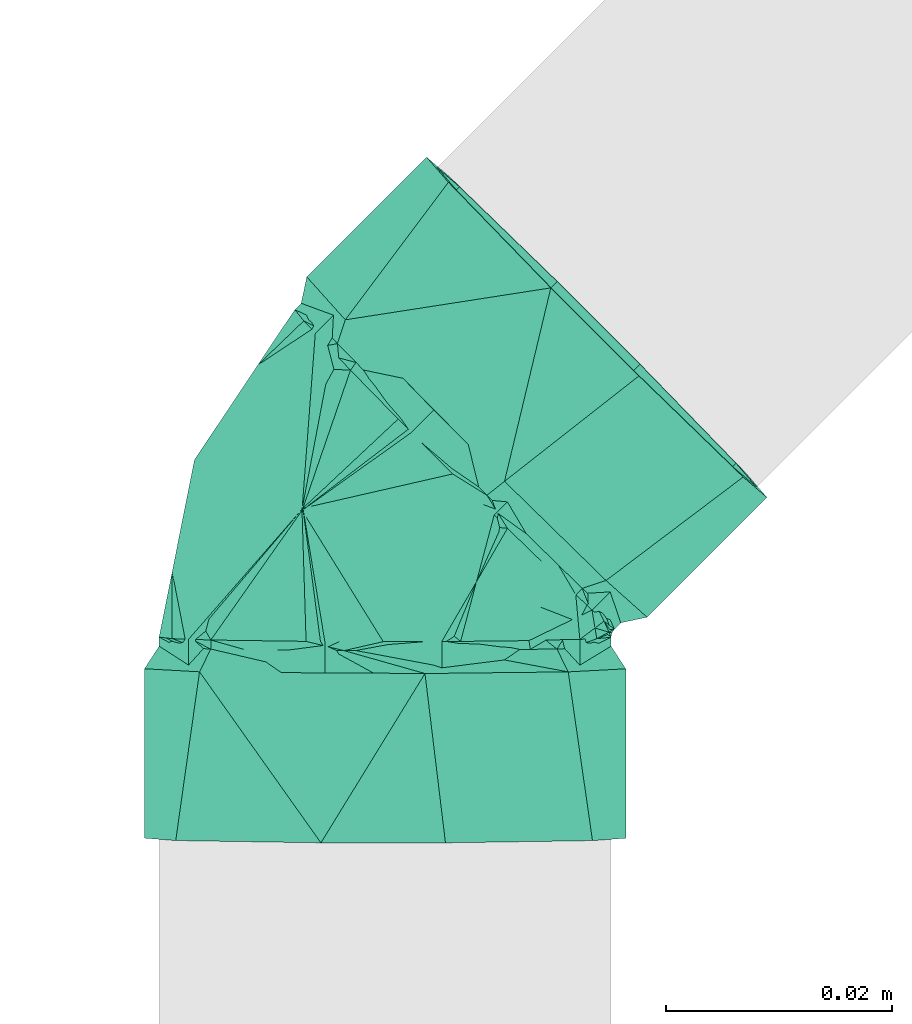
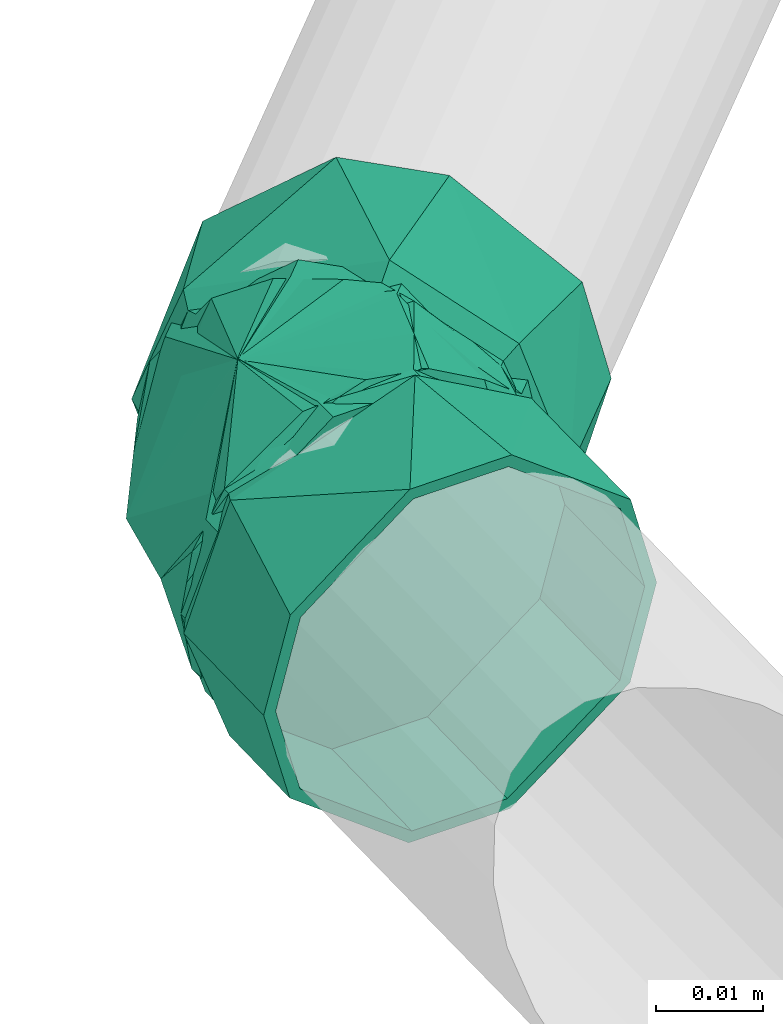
# One storey, part 370 of 589: 1 flow fitting.
"""IFC2X3 building model written with IfcOpenShell, lengths in millimetres."""

from ifc_helpers import new_model, entity, si_unit, converted_unit, derived_unit, direction, frame, origin, place, context, subcontext, project, spatial, faceted_brep, source, transform, mapped, material, type_object, type_shapes, element, save


model = new_model("IFC2X3")

# Units and contexts
model_context = context("Model", 3, precision=0.01, world=origin(), true_north=direction((6.123031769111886e-17, 1.0)))
body_context = subcontext(model_context, "Body", "Model", "MODEL_VIEW")
ifc_project = project(units=[si_unit("LENGTHUNIT", "METRE", prefix="MILLI"), si_unit("AREAUNIT", "SQUARE_METRE"), si_unit("VOLUMEUNIT", "CUBIC_METRE"), converted_unit("PLANEANGLEUNIT", "DEGREE", entity("IfcRatioMeasure", 0.017453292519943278), si_unit("PLANEANGLEUNIT", "RADIAN"), dimensions=[0, 0, 0, 0, 0, 0, 0]), si_unit("MASSUNIT", "GRAM", prefix="KILO"), derived_unit("MASSDENSITYUNIT", [(si_unit("MASSUNIT", "GRAM", prefix="KILO"), 1), (si_unit("LENGTHUNIT", "METRE"), -3)]), derived_unit("IONCONCENTRATIONUNIT", [(si_unit("MASSUNIT", "GRAM", prefix="KILO"), 1), (si_unit("LENGTHUNIT", "METRE"), -3)]), derived_unit("MOMENTOFINERTIAUNIT", [(si_unit("LENGTHUNIT", "METRE"), 4)]), si_unit("TIMEUNIT", "SECOND"), si_unit("FREQUENCYUNIT", "HERTZ"), si_unit("THERMODYNAMICTEMPERATUREUNIT", "DEGREE_CELSIUS"), derived_unit("THERMALTRANSMITTANCEUNIT", [(si_unit("MASSUNIT", "GRAM", prefix="KILO"), 1), (si_unit("THERMODYNAMICTEMPERATUREUNIT", "KELVIN"), -1), (si_unit("TIMEUNIT", "SECOND"), -3)]), derived_unit("THERMALCONDUCTANCEUNIT", [(si_unit("MASSUNIT", "GRAM", prefix="KILO"), 1), (si_unit("THERMODYNAMICTEMPERATUREUNIT", "KELVIN"), -1), (si_unit("TIMEUNIT", "SECOND"), -3), (si_unit("LENGTHUNIT", "METRE"), 1)]), derived_unit("VOLUMETRICFLOWRATEUNIT", [(si_unit("LENGTHUNIT", "METRE"), 3), (si_unit("TIMEUNIT", "SECOND"), -1)]), derived_unit("MASSFLOWRATEUNIT", [(si_unit("MASSUNIT", "GRAM", prefix="KILO"), 1), (si_unit("TIMEUNIT", "SECOND"), -1)]), derived_unit("ROTATIONALFREQUENCYUNIT", [(si_unit("TIMEUNIT", "SECOND"), -1)]), si_unit("ELECTRICCURRENTUNIT", "AMPERE"), si_unit("ELECTRICVOLTAGEUNIT", "VOLT"), si_unit("POWERUNIT", "WATT"), si_unit("FORCEUNIT", "NEWTON", prefix="KILO"), si_unit("ILLUMINANCEUNIT", "LUX"), si_unit("LUMINOUSFLUXUNIT", "LUMEN"), si_unit("LUMINOUSINTENSITYUNIT", "CANDELA"), derived_unit("USERDEFINED", [(si_unit("MASSUNIT", "GRAM", prefix="KILO"), -1), (si_unit("LENGTHUNIT", "METRE"), -2), (si_unit("TIMEUNIT", "SECOND"), 3), (si_unit("LUMINOUSFLUXUNIT", "LUMEN"), 1)]), derived_unit("USERDEFINED", [(si_unit("MASSUNIT", "GRAM", prefix="KILO"), 1), (si_unit("TIMEUNIT", "SECOND"), -3), (si_unit("LENGTHUNIT", "METRE"), 3), (si_unit("ELECTRICCURRENTUNIT", "AMPERE"), -2)]), derived_unit("SOUNDPOWERUNIT", [(si_unit("MASSUNIT", "GRAM", prefix="KILO"), 1), (si_unit("TIMEUNIT", "SECOND"), -3), (si_unit("LENGTHUNIT", "METRE"), 2)]), derived_unit("SOUNDPRESSUREUNIT", [(si_unit("MASSUNIT", "GRAM", prefix="KILO"), 1), (si_unit("LENGTHUNIT", "METRE"), -1), (si_unit("TIMEUNIT", "SECOND"), -2)]), derived_unit("LINEARVELOCITYUNIT", [(si_unit("LENGTHUNIT", "METRE"), 1), (si_unit("TIMEUNIT", "SECOND"), -1)]), si_unit("PRESSUREUNIT", "PASCAL"), derived_unit("USERDEFINED", [(si_unit("MASSUNIT", "GRAM", prefix="KILO"), 1), (si_unit("LENGTHUNIT", "METRE"), -2), (si_unit("TIMEUNIT", "SECOND"), -2)]), derived_unit("LINEARFORCEUNIT", [(si_unit("MASSUNIT", "GRAM", prefix="KILO"), 1), (si_unit("TIMEUNIT", "SECOND"), -2)]), derived_unit("PLANARFORCEUNIT", [(si_unit("MASSUNIT", "GRAM", prefix="KILO"), 1), (si_unit("LENGTHUNIT", "METRE"), -1), (si_unit("TIMEUNIT", "SECOND"), -2)]), derived_unit("SPECIFICHEATCAPACITYUNIT", [(si_unit("THERMODYNAMICTEMPERATUREUNIT", "KELVIN"), -1), (si_unit("LENGTHUNIT", "METRE"), 2), (si_unit("TIMEUNIT", "SECOND"), -2)]), derived_unit("HEATINGVALUEUNIT", [(si_unit("LENGTHUNIT", "METRE"), 2), (si_unit("TIMEUNIT", "SECOND"), -2)]), derived_unit("VAPORPERMEABILITYUNIT", [(si_unit("LENGTHUNIT", "METRE"), -1), (si_unit("TIMEUNIT", "SECOND"), 1)]), derived_unit("DYNAMICVISCOSITYUNIT", [(si_unit("MASSUNIT", "GRAM", prefix="KILO"), 1), (si_unit("TIMEUNIT", "SECOND"), -1), (si_unit("LENGTHUNIT", "METRE"), -1)]), derived_unit("THERMALEXPANSIONCOEFFICIENTUNIT", [(si_unit("THERMODYNAMICTEMPERATUREUNIT", "KELVIN"), -1)]), derived_unit("MODULUSOFELASTICITYUNIT", [(si_unit("MASSUNIT", "GRAM", prefix="KILO"), 1), (si_unit("LENGTHUNIT", "METRE"), -1), (si_unit("TIMEUNIT", "SECOND"), -2)]), derived_unit("ISOTHERMALMOISTURECAPACITYUNIT", [(si_unit("LENGTHUNIT", "METRE"), 3), (si_unit("MASSUNIT", "GRAM", prefix="KILO"), -1)]), derived_unit("MOISTUREDIFFUSIVITYUNIT", [(si_unit("TIMEUNIT", "SECOND"), -1), (si_unit("LENGTHUNIT", "METRE"), 2)])], contexts=[model_context])

# Site, building, storey
site_placement = place(None, origin())
site = spatial("IfcSite", under=ifc_project, at=site_placement, Name="Default", CompositionType="ELEMENT")
building_placement = place(site_placement, origin())
building = spatial("IfcBuilding", under=site, at=building_placement, CompositionType="ELEMENT")
storey_placement = place(building_placement, frame((0.0, 0.0, 100.0)))
storey = spatial("IfcBuildingStorey", under=building, at=storey_placement, Name="TÉRREO", CompositionType="ELEMENT", Elevation=100.0)

# Flow fitting
ifc_material = material(Name="PVC Série Normal")
pipe_fitting_type = type_object("IfcPipeFittingType", Name="PVC Esgoto_Joelho 45_90_Rodrigo MEP:a. Série Normal", PredefinedType="NOTDEFINED", material=ifc_material)
shared_shape = source(origin(), body_context, "Body", "Brep", [
    faceted_brep([(20.291797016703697, -7.993282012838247, 0.0), (18.397234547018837, -6.098470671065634, 10.0), (9.810603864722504, 2.489287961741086, 19.318516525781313), (2.4905765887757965, 9.810276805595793, 19.318516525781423), (-6.0960540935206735, 18.39803543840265, 10.0), (-7.990616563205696, 20.29284678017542, 0.0), (-6.0960540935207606, 18.398035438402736, -10.0), (2.49057658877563, 9.81027680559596, -19.31851652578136), (9.810603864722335, 2.4892879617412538, -19.318516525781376), (18.397234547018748, -6.098470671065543, -10.0), (-6.010587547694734, 22.272615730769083, 0.0), (-4.116025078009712, 20.377804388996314, 10.0), (4.470605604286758, 11.790045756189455, 19.318516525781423), (11.790632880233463, 4.46905691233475, 19.318516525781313), (20.3772635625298, -4.118701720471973, 10.0), (22.271826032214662, -6.013513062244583, 0.0), (20.37726356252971, -4.11870172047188, -10.0), (11.790632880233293, 4.469056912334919, -19.318516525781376), (4.4706056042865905, 11.790045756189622, -19.31851652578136), (-4.116025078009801, 20.3778043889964, -10.0)], [[[0, 1, 2, 3, 4, 5, 6, 7, 8, 9]], [[10, 11, 12, 13, 14, 15, 16, 17, 18, 19]], [[0, 15, 14, 1]], [[1, 14, 13, 2]], [[13, 12, 3, 2]], [[3, 12, 11, 4]], [[4, 11, 10, 5]], [[5, 10, 19, 6]], [[6, 19, 18, 7]], [[18, 17, 8, 7]], [[8, 17, 16, 9]], [[9, 16, 15, 0]]]),
    faceted_brep([(-11.497676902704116, -17.320508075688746, -10.0), (-11.497676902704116, -20.0, 0.0), (-11.497676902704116, -17.320508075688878, 10.0), (-11.497676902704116, -5.176380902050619, 19.318516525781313), (-11.497676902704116, 5.1763809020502, 19.318516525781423), (-11.497676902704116, 17.320508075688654, 10.0), (-11.497676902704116, 20.0, 0.0), (-11.497676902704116, 17.320508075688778, -10.0), (-11.497676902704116, 5.17638090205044, -19.31851652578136), (-11.497676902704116, -5.176380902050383, -19.318516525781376), (-8.697676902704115, 5.17638090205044, -19.31851652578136), (-8.697676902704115, 17.320508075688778, -10.0), (-8.697676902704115, 20.0, 0.0), (-8.697676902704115, 17.320508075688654, 10.0), (-8.697676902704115, 5.1763809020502, 19.318516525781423), (-8.697676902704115, -5.176380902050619, 19.318516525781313), (-8.697676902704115, -17.320508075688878, 10.0), (-8.697676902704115, -20.0, 0.0), (-8.697676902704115, -17.320508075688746, -10.0), (-8.697676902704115, -5.176380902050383, -19.318516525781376)], [[[0, 1, 2, 3, 4, 5, 6, 7, 8, 9]], [[10, 11, 12, 13, 14, 15, 16, 17, 18, 19]], [[1, 17, 16, 2]], [[2, 16, 15, 3]], [[15, 14, 4, 3]], [[4, 14, 13, 5]], [[5, 13, 12, 6]], [[6, 12, 11, 7]], [[7, 11, 10, 8]], [[10, 19, 9, 8]], [[9, 19, 18, 0]], [[0, 18, 17, 1]]]),
    faceted_brep([(-26.49767690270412, -5.512845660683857, -20.574220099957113), (-26.49767690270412, -5.176380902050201, -19.318516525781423), (-26.49767690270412, 5.176380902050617, -19.318516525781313), (-26.49767690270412, -18.44634110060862, -10.649999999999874), (-26.49767690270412, 5.512845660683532, -20.574220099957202), (-26.49767690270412, -17.320508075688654, -10.0), (-26.49767690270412, -20.0, 0.0), (-26.49767690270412, -21.3, 0.0), (-26.49767690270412, -17.32050807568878, 10.0), (-26.49767690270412, -18.446341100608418, 10.65000000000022), (-26.49767690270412, -5.176380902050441, 19.31851652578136), (-26.49767690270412, -5.512845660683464, 20.574220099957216), (-26.49767690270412, 5.176380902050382, 19.318516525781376), (-26.49767690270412, 5.512845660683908, 20.5742200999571), (-26.49767690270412, 17.320508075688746, 10.0), (-26.49767690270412, 18.446341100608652, 10.649999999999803), (-26.49767690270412, 21.3, 0.0), (-26.49767690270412, 20.0, 0.0), (-26.49767690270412, 18.44634110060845, -10.650000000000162), (-26.49767690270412, 17.320508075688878, -10.0), (-11.497676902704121, 17.320508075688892, -10.0), (-11.497676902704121, 20.0, 0.0), (-11.497676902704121, 5.17638090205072, -19.318516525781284), (-11.497676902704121, -5.176380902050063, -19.31851652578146), (-11.497676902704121, -17.320508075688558, -10.0), (-11.497676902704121, -20.0, 0.0), (-11.497676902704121, -17.320508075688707, 10.0), (-11.497676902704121, -5.176380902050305, 19.318516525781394), (-11.497676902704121, 5.176380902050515, 19.318516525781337), (-11.497676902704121, 17.320508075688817, 10.0), (-11.497676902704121, 21.3, 0.0), (-11.497676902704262, 16.315983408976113, 13.692285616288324), (-11.497676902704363, 3.696367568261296, 20.976817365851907), (-11.497676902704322, -16.31941754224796, 13.688192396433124), (-11.497676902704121, -21.3, 0.0), (-11.497676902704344, -6.311524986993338, 17.3325048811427), (-11.49767690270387, -16.319417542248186, -13.688192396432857), (-11.497676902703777, -3.7016293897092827, -20.975889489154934), (-11.497676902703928, 16.315983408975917, -13.692285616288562), (-11.497676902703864, 6.307177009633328, -17.334087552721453), (-9.497676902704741, -3.470767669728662, -19.69654212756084), (-9.49767690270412, 20.0, 0.0), (-9.497676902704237, 18.830849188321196, -3.2131907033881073), (-9.497676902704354, 17.66169837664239, -6.426381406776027), (-9.497676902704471, 16.4925475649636, -9.639572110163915), (-9.497676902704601, 15.323396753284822, -12.852762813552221), (-9.497676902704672, 5.9263145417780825, -16.27465247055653), (-9.497676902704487, -15.320172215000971, -12.856606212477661), (-9.49767690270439, -16.490129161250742, -9.642454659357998), (-9.497676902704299, -17.660086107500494, -6.428303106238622), (-9.49767690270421, -18.830043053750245, -3.214151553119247), (-9.497676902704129, -20.0, 0.0), (-9.497676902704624, 10.624855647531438, -14.563707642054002), (-9.497676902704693, 1.2277734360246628, -17.98559729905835), (-9.497676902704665, -6.433118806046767, -17.98655814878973), (-9.497676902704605, -9.395469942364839, -16.276574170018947), (-9.49767690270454, -12.357821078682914, -14.566590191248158), (-9.497676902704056, -18.830043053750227, 3.2141515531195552), (-9.497676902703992, -17.660086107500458, 6.428303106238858), (-9.497676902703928, -16.490129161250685, 9.64245465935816), (-9.497676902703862, -15.3201722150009, 12.856606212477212), (-9.497676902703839, -12.970687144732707, 13.711489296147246), (-9.497676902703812, -10.621202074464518, 14.566372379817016), (-9.497676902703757, -5.922231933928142, 16.27613854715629), (-9.497676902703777, 15.323396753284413, 12.852762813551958), (-9.497676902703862, 16.49254756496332, 9.63957211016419), (-9.49767690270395, 17.661698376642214, 6.426381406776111), (-9.497676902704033, 18.830849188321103, 3.213190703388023), (-9.497676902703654, 3.47570834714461, 19.695670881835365), (-9.49767690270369, 6.43763044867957, 17.984943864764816), (-9.497676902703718, 9.399552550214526, 16.274216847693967), (-9.497676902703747, 12.361474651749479, 14.563489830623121), (-9.497676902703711, -1.2232617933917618, 17.985904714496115), (-8.697676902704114, 17.057389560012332, 9.848048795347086), (-8.697676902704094, 6.840479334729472, 18.793824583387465), (-8.697676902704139, -9.848049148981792, 17.057385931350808), (-8.697676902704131, -3.420183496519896, 19.396932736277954), (-8.697676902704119, 0.0, 20.0), (-8.697676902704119, 19.396930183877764, 3.4201905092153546), (-8.697676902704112, 15.320918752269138, 12.855716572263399), (-8.697676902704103, 11.080699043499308, 15.82477057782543), (-8.697676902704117, 18.793860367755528, 6.840381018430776), (-8.697676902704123, -18.793848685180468, 6.840413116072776), (-8.697676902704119, 20.0, 0.0), (-8.697676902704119, -20.0, 0.0), (-8.697676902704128, -15.824789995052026, 11.080659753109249), (-8.697676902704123, -19.156924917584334, 4.781308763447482), (-8.697676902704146, -6.84036699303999, 18.793865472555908), (-8.69767690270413, -14.34026064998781, 13.200783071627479), (-8.697676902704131, -12.855731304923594, 15.320906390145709), (-8.697676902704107, 3.420239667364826, 19.396912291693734), (-8.697676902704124, -17.057361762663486, -9.848091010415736), (-8.697676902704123, -18.793848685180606, -6.840413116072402), (-8.697676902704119, 19.39693018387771, -3.4201905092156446), (-8.697676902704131, -3.420183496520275, -19.396932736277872), (-8.697676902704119, 0.0, -20.0), (-8.69767690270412, -19.396924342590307, -3.4202065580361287), (-8.697676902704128, -15.320874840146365, -12.85576890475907), (-8.697676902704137, -11.080620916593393, -15.824817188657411), (-8.697676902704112, 15.824828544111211, -11.080616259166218), (-8.697676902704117, 18.79386036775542, -6.84038101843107), (-8.697676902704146, -6.840366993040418, -18.79386547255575), (-8.697676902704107, 12.855796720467, -15.320851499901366), (-8.697676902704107, 3.420239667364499, -19.396912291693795), (-8.697676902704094, 6.840479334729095, -18.7938245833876), (-8.697676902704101, 9.848138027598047, -17.05733804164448), (18.39723454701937, -6.098470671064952, -10.0), (9.810603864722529, 2.489287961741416, -19.318516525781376), (2.490576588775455, 9.81027680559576, -19.31851652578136), (-6.0960540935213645, 18.39803543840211, -10.0), (-7.990616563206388, 20.292846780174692, 0.0), (-6.096054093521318, 18.39803543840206, 10.0), (2.4905765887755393, 9.810276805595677, 19.31851652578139), (9.810603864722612, 2.489287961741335, 19.318516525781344), (18.39723454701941, -6.098470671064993, 10.0), (20.29179701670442, -7.993282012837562, 0.0), (-2.9119619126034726, -18.849248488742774, 0.0), (15.386759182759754, -11.270374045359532, 0.0), (2.8666055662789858, -7.210896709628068, 17.605576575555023), (6.991099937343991, -16.87957604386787, 0.0), (-8.315023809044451, 20.076107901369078, 0.0), (2.8666055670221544, -7.2108967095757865, -17.605576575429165)], [[[0, 1, 2]], [[1, 0, 3]], [[2, 4, 0]], [[3, 5, 1]], [[3, 6, 5]], [[6, 3, 7]], [[8, 6, 7]], [[8, 7, 9]], [[9, 10, 8]], [[9, 11, 10]], [[10, 11, 12]], [[13, 12, 11]], [[13, 14, 12]], [[14, 13, 15]], [[16, 14, 15]], [[17, 14, 16]], [[18, 17, 16]], [[18, 19, 17]], [[19, 18, 4]], [[4, 2, 19]], [[20, 21, 17, 19]], [[22, 20, 19, 2]], [[2, 1, 23, 22]], [[24, 23, 1, 5]], [[25, 24, 5, 6]], [[26, 25, 6, 8]], [[27, 26, 8, 10]], [[10, 12, 28, 27]], [[29, 28, 12, 14]], [[21, 29, 14, 17]], [[16, 15, 30]], [[15, 31, 30]], [[31, 15, 13]], [[31, 13, 32]], [[33, 11, 9]], [[34, 9, 7]], [[11, 33, 35, 32]], [[33, 9, 34]], [[11, 32, 13]], [[7, 3, 34]], [[3, 36, 34]], [[36, 3, 0]], [[36, 0, 37]], [[38, 4, 18]], [[30, 18, 16]], [[4, 38, 39, 37]], [[38, 18, 30]], [[4, 37, 0]], [[28, 29, 21, 20, 22, 23, 24, 25, 26, 27]], [[39, 40, 37]], [[30, 41, 42, 43, 44, 45]], [[30, 45, 38]], [[38, 46, 39]], [[36, 47, 48, 49, 50, 51]], [[38, 45, 52, 46]], [[36, 37, 47]], [[34, 36, 51]], [[39, 46, 53, 40]], [[37, 40, 54, 55, 56, 47]], [[33, 51, 57, 58, 59, 60]], [[33, 34, 51]], [[60, 35, 33]], [[35, 60, 61, 62, 63]], [[63, 32, 35]], [[30, 64, 65, 66, 67, 41]], [[31, 68, 69, 70, 71, 64]], [[31, 64, 30]], [[32, 63, 72, 68]], [[68, 31, 32]], [[64, 73, 65]], [[74, 70, 69, 68]], [[62, 75, 63]], [[76, 77, 72]], [[78, 67, 66]], [[79, 71, 80]], [[65, 81, 66]], [[64, 79, 73]], [[82, 59, 58]], [[83, 41, 67]], [[84, 57, 51]], [[60, 59, 85]], [[83, 67, 78]], [[86, 82, 58]], [[81, 65, 73]], [[63, 87, 76]], [[63, 76, 72]], [[63, 75, 87]], [[82, 85, 59]], [[68, 72, 77]], [[66, 81, 78]], [[61, 88, 89]], [[89, 62, 61]], [[68, 77, 90, 74]], [[84, 86, 57]], [[86, 58, 57]], [[89, 75, 62]], [[61, 60, 88]], [[60, 85, 88]], [[74, 80, 70]], [[71, 79, 64]], [[71, 70, 80]], [[49, 91, 92]], [[93, 43, 42]], [[54, 40, 94]], [[40, 53, 95]], [[51, 96, 84]], [[97, 56, 98]], [[48, 97, 91]], [[91, 49, 48]], [[99, 44, 100]], [[101, 55, 54]], [[96, 51, 50]], [[83, 42, 41]], [[45, 99, 102]], [[49, 92, 50]], [[42, 83, 93]], [[48, 47, 97]], [[53, 103, 95]], [[104, 103, 46]], [[52, 105, 46]], [[44, 99, 45]], [[46, 103, 53]], [[50, 92, 96]], [[105, 52, 102]], [[44, 43, 100]], [[40, 95, 94]], [[100, 43, 93]], [[102, 52, 45]], [[105, 104, 46]], [[101, 98, 55]], [[54, 94, 101]], [[56, 97, 47]], [[56, 55, 98]], [[106, 107, 108, 109, 110, 111, 112, 113, 114, 115]], [[116, 89, 88, 85, 82]], [[117, 118, 119]], [[118, 89, 119]], [[118, 77, 76, 87]], [[116, 82, 86, 84]], [[118, 74, 90, 77]], [[111, 81, 73, 79]], [[112, 79, 80, 74]], [[118, 87, 75, 89]], [[89, 116, 119]], [[74, 118, 112]], [[118, 114, 113]], [[118, 117, 114]], [[120, 83, 78, 81]], [[81, 110, 120]], [[110, 81, 111]], [[117, 115, 114]], [[112, 111, 79]], [[112, 118, 113]], [[104, 108, 121]], [[116, 92, 91, 97]], [[109, 102, 99, 100]], [[106, 121, 107]], [[97, 121, 119]], [[108, 104, 105, 102]], [[116, 84, 96, 92]], [[97, 119, 116]], [[121, 97, 98, 101]], [[121, 95, 103, 104]], [[110, 100, 120]], [[109, 100, 110]], [[108, 102, 109]], [[121, 101, 94, 95]], [[108, 107, 121]], [[119, 121, 117]], [[106, 117, 121]], [[106, 115, 117]], [[120, 100, 93, 83]]]),
    faceted_brep([(-4.116025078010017, 20.37780438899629, -10.0), (-6.010587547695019, 22.272615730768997, 0.0), (-4.116025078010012, 20.37780438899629, 10.0), (4.470605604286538, 11.790045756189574, 19.318516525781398), (11.790632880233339, 4.469056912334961, 19.318516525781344), (20.37726356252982, -4.11870172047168, 10.0), (22.27182603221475, -6.013513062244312, 0.0), (20.377263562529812, -4.118701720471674, -10.0), (11.79063288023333, 4.469056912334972, -19.318516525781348), (4.470605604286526, 11.790045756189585, -19.318516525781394), (23.191004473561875, -6.932812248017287, 0.0), (20.85751959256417, -7.4276337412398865, 0.0), (20.03085942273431, -6.600864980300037, -3.213190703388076), (19.204199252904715, -5.774096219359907, -6.426381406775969), (18.377539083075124, -4.947327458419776, -9.639572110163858), (17.55087891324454, -4.120558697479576, -12.85276281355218), (3.6679902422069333, 12.592766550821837, -17.332504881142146), (10.744174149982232, 5.51565310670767, -20.976817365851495), (4.262270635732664, 9.169795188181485, -19.696542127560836), (19.667004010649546, -3.408348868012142, -13.69228561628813), (-4.115973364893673, 17.54913976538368, -12.856606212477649), (-3.408193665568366, 19.669879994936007, -13.688192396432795), (2.167709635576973, 11.264631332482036, -17.986558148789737), (0.07314863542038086, 13.359467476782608, -16.27657417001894), (-2.021412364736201, 15.45430362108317, -14.566590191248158), (10.906574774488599, 2.5246182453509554, -16.274652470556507), (-4.943203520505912, 18.37647858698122, -9.642454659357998), (-5.7704336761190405, 19.20381740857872, -6.428303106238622), (-6.597663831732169, 20.031156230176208, -3.2141515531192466), (-7.424893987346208, 20.858495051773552, 0.0), (-6.92976598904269, 23.191914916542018, 0.0), (14.22872684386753, -0.7979702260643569, -14.563707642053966), (7.58442270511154, 5.8472067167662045, -17.98559729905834), (-3.408193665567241, 19.669879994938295, 13.688192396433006), (-6.597663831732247, 20.031156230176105, 3.2141515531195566), (-5.770433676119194, 19.20381740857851, 6.428303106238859), (-4.943203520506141, 18.376478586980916, 9.64245465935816), (-4.115973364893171, 17.549139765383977, 12.856606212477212), (12.59017395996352, 3.6694108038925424, 17.334087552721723), (5.513343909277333, 10.747170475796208, 20.975889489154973), (9.173848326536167, 4.257572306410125, 19.695670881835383), (17.55087891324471, -4.120558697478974, 12.852762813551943), (19.66700401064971, -3.4083488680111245, 13.692285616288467), (11.268105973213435, 2.1630395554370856, 17.984943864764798), (13.362363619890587, 0.06850680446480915, 16.274216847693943), (15.456621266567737, -2.0260259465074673, 14.563489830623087), (2.5289374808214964, 10.903356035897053, 16.276138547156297), (18.377539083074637, -4.94732745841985, 9.639572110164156), (19.20419925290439, -5.774096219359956, 6.426381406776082), (20.030859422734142, -6.600864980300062, 3.213190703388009), (-2.4547456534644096, 15.887693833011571, 13.711489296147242), (-0.793517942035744, 14.22624790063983, 14.566372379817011), (5.851392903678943, 7.580464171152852, 17.985904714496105), (14.840003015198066, 22.63388298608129, -20.574220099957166), (15.077903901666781, 22.395950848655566, -19.318516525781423), (22.39793117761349, 15.074962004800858, -19.318516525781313), (5.69524133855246, 31.779845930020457, -10.649999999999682), (22.635832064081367, 14.837029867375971, -20.574220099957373), (6.491273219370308, 30.983709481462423, -10.0), (4.596710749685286, 32.8785208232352, 0.0), (3.677532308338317, 33.797820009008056, 0.0), (6.491273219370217, 30.983709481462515, 10.0), (5.6952413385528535, 31.77984593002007, 10.650000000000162), (15.077903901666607, 22.39595084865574, 19.31851652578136), (14.840003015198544, 22.633882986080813, 20.5742200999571), (22.397931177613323, 15.074962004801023, 19.318516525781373), (22.635832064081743, 14.837029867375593, 20.57422009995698), (30.984561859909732, 6.4872033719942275, 10.0), (31.78059374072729, 5.691066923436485, 10.649999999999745), (33.798302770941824, 3.6730928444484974, 0.0), (32.87912432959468, 4.592392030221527, 0.0), (31.780593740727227, 5.691066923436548, -10.650000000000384), (30.984561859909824, 6.487203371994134, -10.0), (18.211174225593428, -5.912385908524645, 9.848091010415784), (10.98714243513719, 1.3125948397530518, 18.793865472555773), (-0.812637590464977, 13.11392489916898, 17.05733804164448), (3.7322744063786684, 8.568415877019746, 19.396912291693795), (6.15059022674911, 6.149782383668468, 20.0), (19.865386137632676, -7.5668151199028, 3.420206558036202), (16.983373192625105, -4.684423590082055, 12.8557689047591), (13.98525781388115, -1.6859143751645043, 15.824817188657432), (19.438975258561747, -7.1403482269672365, 6.84041311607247), (-7.13780306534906, 19.43992125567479, 6.840381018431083), (20.2917970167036, -7.993282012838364, 0.0), (-7.9906165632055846, 20.29284678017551, 0.0), (-5.03851841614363, 17.34036084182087, 11.080616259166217), (-7.3945144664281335, 19.696666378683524, 4.781309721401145), (1.3139585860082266, 10.987049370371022, 18.79382458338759), (-3.98887609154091, 16.29058063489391, 13.20073387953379), (-2.939233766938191, 15.240800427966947, 15.320851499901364), (8.568866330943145, 3.7311886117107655, 19.39693273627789), (-5.91001342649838, 18.21197033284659, -9.848048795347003), (-7.137803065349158, 19.439921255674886, -6.840381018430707), (19.865386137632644, -7.566815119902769, -3.420206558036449), (3.7322744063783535, 8.568415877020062, -19.396912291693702), (6.150590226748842, 6.1497823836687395, -20.0), (-7.56420981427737, 19.866384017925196, -3.4201905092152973), (-4.682223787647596, 16.984019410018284, -12.85571657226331), (-1.6841326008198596, 13.985534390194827, -15.824770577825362), (17.33967161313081, -5.040768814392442, -11.080659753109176), (19.43897525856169, -7.1403482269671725, -6.840413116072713), (1.3139585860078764, 10.987049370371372, -18.793824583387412), (15.240367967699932, -2.941189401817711, -15.32090639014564), (8.568866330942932, 3.731188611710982, -19.396932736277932), (10.987142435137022, 1.312594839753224, -18.79386547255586), (13.113755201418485, -0.814297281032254, -17.05738593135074), (-8.69767690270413, 5.176380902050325, 19.31851652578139), (-8.697676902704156, 17.320508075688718, 10.0), (-8.697676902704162, 20.0, 0.0), (-8.697676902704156, 17.320508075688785, -10.0), (-8.69767690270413, 5.176380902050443, -19.31851652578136), (-8.697676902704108, -5.176380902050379, -19.318516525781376), (-8.697676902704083, -17.320508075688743, -10.0), (-8.697676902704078, -20.0, 0.0), (-8.697676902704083, -17.32050807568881, 10.0), (-8.697676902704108, -5.176380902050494, 19.318516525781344), (6.991099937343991, -16.87957604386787, 0.0), (3.071408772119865, -7.126073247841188, 17.60557611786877), (-2.9119619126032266, -18.849248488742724, 0.0), (-8.315023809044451, 20.07610790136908, 0.0), (15.386759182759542, -11.270374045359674, 0.0), (3.0714087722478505, -7.126073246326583, -17.60557611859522)], [[[0, 1, 2, 3, 4, 5, 6, 7, 8, 9]], [[10, 11, 12, 13, 14, 15]], [[16, 17, 18]], [[19, 10, 15]], [[16, 20, 21]], [[16, 18, 22, 23, 24, 20]], [[19, 25, 17]], [[21, 20, 26, 27, 28, 29]], [[21, 29, 30]], [[19, 15, 31, 25]], [[17, 25, 32, 18]], [[33, 29, 34, 35, 36, 37]], [[38, 39, 40]], [[33, 30, 29]], [[38, 41, 42]], [[38, 40, 43, 44, 45, 41]], [[33, 46, 39]], [[10, 41, 47, 48, 49, 11]], [[42, 41, 10]], [[33, 37, 50, 51, 46]], [[39, 46, 52, 40]], [[53, 54, 55]], [[54, 53, 56]], [[55, 57, 53]], [[56, 58, 54]], [[56, 59, 58]], [[59, 56, 60]], [[61, 59, 60]], [[61, 60, 62]], [[62, 63, 61]], [[62, 64, 63]], [[63, 64, 65]], [[66, 65, 64]], [[66, 67, 65]], [[67, 66, 68]], [[69, 67, 68]], [[70, 67, 69]], [[71, 70, 69]], [[71, 72, 70]], [[72, 71, 57]], [[57, 55, 72]], [[69, 68, 10]], [[68, 42, 10]], [[42, 68, 66]], [[66, 39, 38, 42]], [[33, 64, 62]], [[30, 62, 60]], [[64, 33, 39]], [[33, 62, 30]], [[64, 39, 66]], [[60, 56, 30]], [[56, 21, 30]], [[21, 56, 53]], [[53, 17, 16, 21]], [[19, 57, 71]], [[10, 71, 69]], [[57, 19, 17]], [[19, 71, 10]], [[57, 17, 53]], [[7, 6, 70, 72]], [[8, 7, 72, 55]], [[55, 54, 9, 8]], [[0, 9, 54, 58]], [[1, 0, 58, 59]], [[2, 1, 59, 61]], [[3, 2, 61, 63]], [[63, 65, 4, 3]], [[5, 4, 65, 67]], [[6, 5, 67, 70]], [[41, 73, 47]], [[74, 44, 43, 40]], [[51, 75, 46]], [[76, 77, 52]], [[78, 49, 48]], [[79, 45, 80]], [[47, 81, 48]], [[41, 79, 73]], [[82, 36, 35]], [[83, 11, 49]], [[84, 34, 29]], [[37, 36, 85]], [[83, 49, 78]], [[86, 82, 35]], [[81, 47, 73]], [[46, 87, 76]], [[46, 76, 52]], [[46, 75, 87]], [[82, 85, 36]], [[40, 52, 77]], [[48, 81, 78]], [[50, 88, 89]], [[89, 51, 50]], [[40, 77, 90, 74]], [[84, 86, 34]], [[86, 35, 34]], [[89, 75, 51]], [[50, 37, 88]], [[37, 85, 88]], [[74, 80, 44]], [[45, 79, 41]], [[45, 44, 80]], [[27, 91, 92]], [[93, 13, 12]], [[22, 18, 94]], [[18, 32, 95]], [[29, 96, 84]], [[97, 24, 98]], [[26, 97, 91]], [[91, 27, 26]], [[99, 14, 100]], [[101, 23, 22]], [[96, 29, 28]], [[83, 12, 11]], [[15, 99, 102]], [[27, 92, 28]], [[12, 83, 93]], [[26, 20, 97]], [[32, 103, 95]], [[104, 103, 25]], [[31, 105, 25]], [[14, 99, 15]], [[25, 103, 32]], [[28, 92, 96]], [[105, 31, 102]], [[14, 13, 100]], [[18, 95, 94]], [[100, 13, 93]], [[102, 31, 15]], [[105, 104, 25]], [[101, 98, 23]], [[22, 94, 101]], [[24, 97, 20]], [[24, 23, 98]], [[106, 107, 108, 109, 110, 111, 112, 113, 114, 115]], [[116, 117, 118]], [[115, 117, 106]], [[118, 117, 114]], [[107, 106, 89]], [[82, 119, 108]], [[108, 107, 82]], [[114, 113, 118]], [[117, 74, 90, 77]], [[79, 117, 116]], [[117, 79, 80, 74]], [[79, 116, 120]], [[117, 77, 76, 87]], [[119, 82, 86, 84]], [[120, 81, 73, 79]], [[107, 89, 88, 85, 82]], [[106, 87, 75, 89]], [[114, 117, 115]], [[117, 87, 106]], [[120, 83, 78, 81]], [[121, 110, 101]], [[109, 108, 92]], [[118, 113, 112]], [[109, 97, 110]], [[121, 118, 112]], [[121, 112, 111]], [[111, 110, 121]], [[92, 108, 119]], [[109, 92, 91, 97]], [[110, 97, 98, 101]], [[121, 104, 105, 102]], [[118, 121, 116]], [[121, 101, 94, 95]], [[102, 116, 121]], [[120, 100, 93, 83]], [[116, 102, 120]], [[120, 102, 99, 100]], [[121, 95, 103, 104]], [[119, 84, 96, 92]]]),
])
type_shapes(pipe_fitting_type, [shared_shape])
flow_fitting_placement = place(storey_placement, frame((-2887.5087241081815, 450.05293446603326, -172.38739853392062), z_axis=(-0.008283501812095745, -0.019995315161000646, 0.9997657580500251), x_axis=(-0.7070360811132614, -0.7068947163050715, -0.019996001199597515)))
element("IfcFlowFitting", 1, at=flow_fitting_placement, inside=storey, type_object=pipe_fitting_type, material=ifc_material, Name="PVC Esgoto_Joelho 45_90_Rodrigo MEP:a. Série Normal", ObjectType="PVC Esgoto_Joelho 45_90_Rodrigo MEP:a. Série Normal", context=body_context, shape_type="MappedRepresentation", body=[
    mapped(shared_shape, transform((0.0, 0.0, 0.0), scale=1.0)),
])

save(model, "model.ifc")
